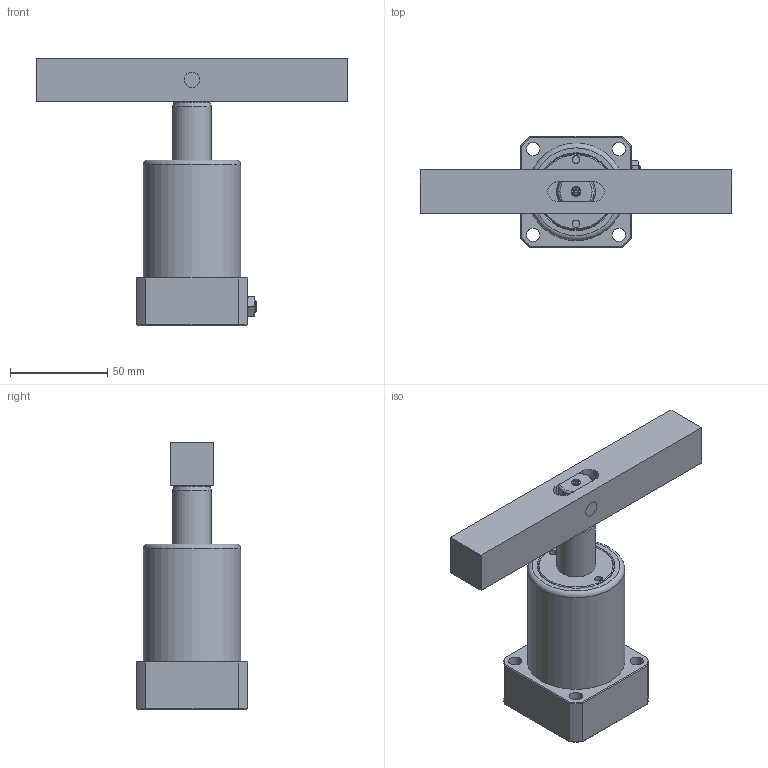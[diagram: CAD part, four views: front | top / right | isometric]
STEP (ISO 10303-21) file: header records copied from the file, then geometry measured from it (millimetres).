
FILE_DESCRIPTION(/* description */ ('Unknown'),/* implementation_level */ '2;1');
FILE_NAME(/* name */ 'HSC-MF32D-B',/* time_stamp */ '2019-05-27T16:08:45+08:00',/* author */ ('Unknown'),/* organization */ ('Unknown'),/* preprocessor_version */ 'ST-DEVELOPER v16.7',/* originating_system */ 'DEX',/* authorisation */ $);
FILE_SCHEMA (('AUTOMOTIVE_DESIGN {1 0 10303 214 3 1 1}'));
Length unit declared in the file: millimetre
Products named in the file (5): HSC-MF32D-B; HSC-MF32D-CYLINDER; HSC-3202-D-AXLE CENTRE; HSC-3202-D-FIXED PIN; HSC-32D-B
Assembly tree (4 placements, depth 2):
  HSC-MF32D-B
    HSC-MF32D-CYLINDER
    HSC-3202-D-AXLE CENTRE
    HSC-3202-D-FIXED PIN
    HSC-32D-B
Bounding box: 160 x 57 x 137.2 mm (x, y, z)
Volume: 258720.8 mm3; surface area: 54974.1 mm2
Topology: 4 solids, 4 shells, 139 faces, 298 edges, 183 vertices
Faces by surface type: plane 58, cylinder 28, cone 24, bspline 24, torus 5
Full cylindrical faces by diameter (mm): 4 x2, 5 x2, 6 x1, 6.8 x4, 8 x4, 10 x2, 20 x2, 32 x2, 50 x1
Entity records: 3917 total; most frequent: CARTESIAN_POINT 1100, DIRECTION 516, ORIENTED_EDGE 512, EDGE_CURVE 256, AXIS2_PLACEMENT_3D 220, EDGE_LOOP 204, FACE_BOUND 204, VERTEX_POINT 174
